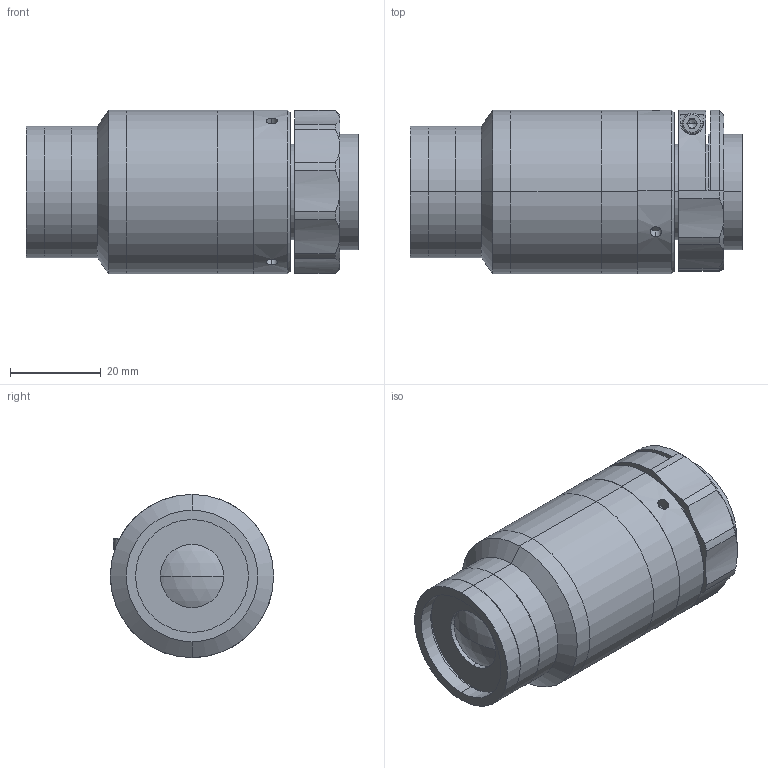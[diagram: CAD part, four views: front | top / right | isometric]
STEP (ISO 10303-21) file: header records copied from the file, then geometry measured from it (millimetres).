
FILE_DESCRIPTION (( 'STEP AP203' ), '1' );
FILE_NAME ('XF-MH05X130.STEP', '2020-08-24T07:08:33', ( 'canrill-02' ), ( '' ), 'SwSTEP 2.0', 'SolidWorks 2014', '' );
FILE_SCHEMA (( 'CONFIG_CONTROL_DESIGN' ));
Length unit declared in the file: millimetre
Products named in the file (1): XF-MH05X130
Bounding box: 73.24 x 36 x 36 mm (x, y, z)
Surface area: 14324.1 mm2 (no closed solid volume)
Topology: 0 solids, 13 shells, 102 faces, 264 edges, 181 vertices
Faces by surface type: cylinder 49, plane 34, cone 15, sphere 2, torus 2
Entity records: 3505 total; most frequent: CARTESIAN_POINT 867, DIRECTION 588, ORIENTED_EDGE 450, EDGE_CURVE 262, AXIS2_PLACEMENT_3D 246, VERTEX_POINT 181, CIRCLE 143, EDGE_LOOP 128
